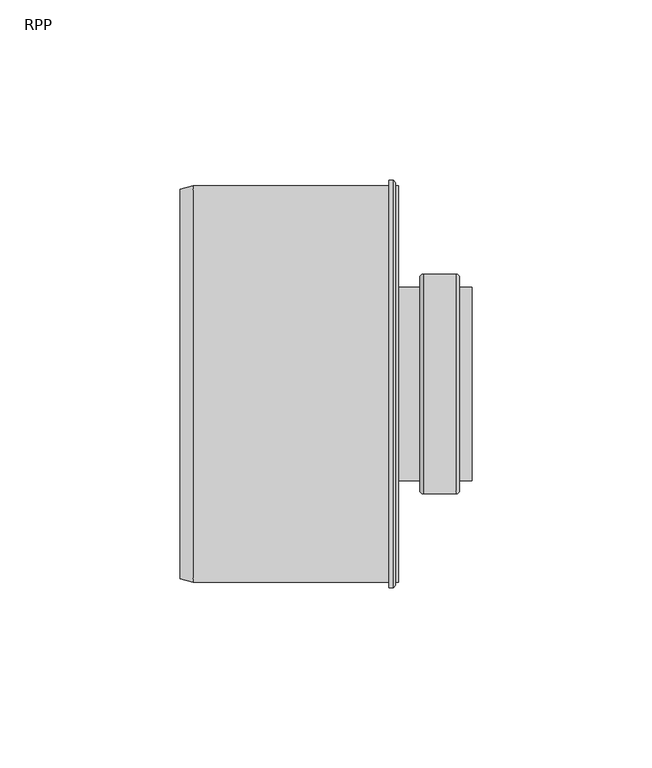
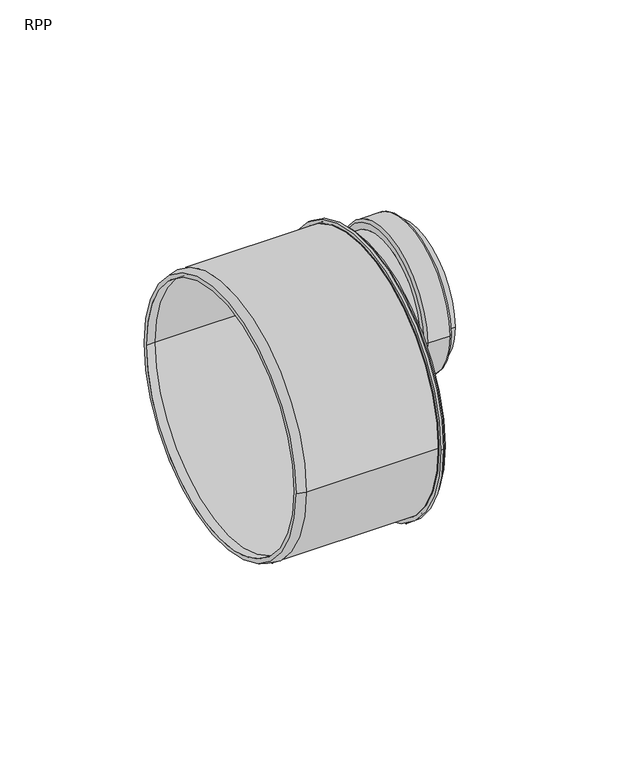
"""IFC4 building model written with IfcOpenShell, lengths in millimetres: pipe fitting geometry, RAUPIANO PLUS Short Reducer : RPP."""

from ifc_helpers import new_model, si_unit, point, frame, frame_2d, origin, origin_2d, place, context, project, spatial, polyline, circle_curve, ellipse_curve, trimmed, segment, composite_curve, outline, extrude, source, transform, mapped, element, save
from ifc_brep_helpers import plane_surface, cylinder_surface, revolved_surface, advanced_brep


def rpp_ede3856b(model_context):
    return source(origin(), model_context, "Body", "SolidModel", [
        extrude(outline(composite_curve([segment(trimmed(circle_curve(origin_2d(), 55.0), [point((-55.0, 0.0))], [point((55.0, 0.0))], False, "CARTESIAN"), True, "CONTINUOUS"), segment(trimmed(circle_curve(origin_2d(), 55.0), [point((55.0, 0.0))], [point((-55.0, 0.0))], False, "CARTESIAN"), True, "CONTINUOUS")], self_intersect=False), holes=[composite_curve([segment(trimmed(circle_curve(frame_2d((0.0, 27.3)), 25.0), [point((-25.0, 27.3))], [point((25.0, 27.3))], True, "CARTESIAN"), True, "CONTINUOUS"), segment(trimmed(circle_curve(frame_2d((0.0, 27.3)), 25.0), [point((25.0, 27.3))], [point((-25.0, 27.3))], True, "CARTESIAN"), True, "CONTINUOUS")], self_intersect=False)]), frame((0.0, 0.0, 0.0), z_axis=(1.0, 0.0, 0.0), x_axis=(0.0, 1.0, 0.0)), (0.0, 0.0, 1.0), 2.7),
        advanced_brep(
        [(0.0, 55.0, 0.0), (0.0, -55.0, 0.0), (1.8, -55.0, 0.0), (1.8, 55.0, 0.0), (1.8, 55.8680651, 0.0), (1.8, -55.8680651, 0.0), (0.0, -56.5429328, 0.0), (0.0, 56.5429328, 0.0), (1.2520203, -56.5429328, 0.0), (1.2520203, 56.5429328, 0.0)],
        [
            (0, 1, circle_curve(frame((0.0, 0.0, 0.0), z_axis=(-1.0, 0.0, 0.0), x_axis=(0.0, -1.0, 0.0)), 55.0)),
            (1, 2),
            (2, 3, circle_curve(frame((1.8, 0.0, 0.0), z_axis=(1.0, 0.0, 0.0), x_axis=(0.0, -1.0, 0.0)), 55.0)),
            (3, 0),
            (1, 0, circle_curve(frame((0.0, 0.0, 0.0), z_axis=(-1.0, 0.0, 0.0), x_axis=(0.0, 1.0, 0.0)), 55.0)),
            (3, 2, circle_curve(frame((1.8, 0.0, 0.0), z_axis=(1.0, 0.0, 0.0), x_axis=(0.0, 1.0, 0.0)), 55.0)),
            (4, 5, circle_curve(frame((1.8, 0.0, 0.0), z_axis=(1.0, 0.0, 0.0), x_axis=(0.0, 1.0, 0.0)), 55.8680651)),
            (5, 4, circle_curve(frame((1.8, 0.0, 0.0), z_axis=(1.0, 0.0, 0.0), x_axis=(0.0, -1.0, 0.0)), 55.8680651)),
            (6, 7, circle_curve(frame((0.0, 0.0, 0.0), z_axis=(-1.0, 0.0, 0.0), x_axis=(0.0, 1.0, 0.0)), 56.5429328)),
            (7, 6, circle_curve(frame((0.0, 0.0, 0.0), z_axis=(-1.0, 0.0, 0.0), x_axis=(0.0, -1.0, 0.0)), 56.5429328)),
            (5, 8),
            (8, 9, circle_curve(frame((1.2520203, 0.0, 0.0), z_axis=(1.0, 0.0, 0.0), x_axis=(0.0, -1.0, 0.0)), 56.5429328)),
            (9, 4),
            (8, 6),
            (7, 9),
            (9, 8, circle_curve(frame((1.2520203, 0.0, 0.0), z_axis=(1.0, 0.0, 0.0), x_axis=(0.0, 1.0, 0.0)), 56.5429328)),
        ],
        [
            revolved_surface(polyline([(1.8, -55.0, 0.0), (0.0, -55.0, 0.0)]), (0.0, 0.0, 0.0), (1.0, 0.0, 0.0)),
            revolved_surface(polyline([(1.8, 55.0, 0.0), (0.0, 55.0, 0.0)]), (0.0, 0.0, 0.0), (1.0, 0.0, 0.0)),
            plane_surface(frame((1.8, 0.0, 0.0), z_axis=(1.0, 0.0, 0.0), x_axis=(0.0, 1.0, 0.0))),
            plane_surface(frame((0.0, 0.0, 0.0), z_axis=(-1.0, 0.0, 0.0), x_axis=(0.0, 1.0, 0.0))),
            revolved_surface(polyline([(1.2520203, -56.5429328, 0.0), (1.8, -55.8680651, 0.0)]), (0.0, 0.0, 0.0), (1.0, 0.0, 0.0)),
            cylinder_surface(frame((0.0, 0.0, 0.0), z_axis=(1.0, 0.0, 0.0), x_axis=(0.0, -1.0, 0.0)), 56.5429328),
            revolved_surface(polyline([(1.2520203, 56.5429328, 0.0), (1.8, 55.8680651, 0.0)]), (0.0, 0.0, 0.0), (1.0, 0.0, 0.0)),
            cylinder_surface(frame((0.0, 0.0, 0.0), z_axis=(1.0, 0.0, 0.0), x_axis=(0.0, 1.0, 0.0)), 56.5429328),
        ],
        [
            (0, [[1, 2, 3, 4]]),
            (1, [[5, -4, 6, -2]]),
            (2, [[7, 8], [-6, -3]]),
            (3, [[9, 10], [-5, -1]]),
            (4, [[-8, 11, 12, 13]]),
            (5, [[-12, 14, -10, 15]]),
            (6, [[-7, -13, 16, -11]]),
            (7, [[-16, -15, -9, -14]]),
        ],
    ),
        advanced_brep(
        [(8.6, 26.8, 27.3), (8.6, -26.8, 27.3), (-22.0, -26.8, 27.3), (-22.0, 26.8, 27.3), (23.0, 26.8, 27.3), (23.0, -26.8, 27.3), (19.6, -26.8, 27.3), (19.6, 26.8, 27.3), (17.6, 25.0, 27.3), (17.6, -25.0, 27.3), (23.0, -25.0, 27.3), (23.0, 25.0, 27.3), (-20.2, 25.0, 27.3), (-20.2, -25.0, 27.3), (10.6, -25.0, 27.3), (10.6, 25.0, 27.3), (17.6, -28.5, 27.3), (17.6, 28.5, 27.3), (9.6, 30.5, 27.3), (9.6, -30.5, 27.3), (8.6, -29.5, 27.3), (8.6, 29.5, 27.3), (18.6, 30.5, 27.3), (18.6, -30.5, 27.3), (19.6, 29.5, 27.3), (19.6, -29.5, 27.3), (10.6, 28.5, 27.3), (10.6, -28.5, 27.3), (-22.0, 22.8, 27.3), (-22.0, -22.8, 27.3), (-20.2, -22.8, 27.3), (-20.2, 22.8, 27.3)],
        [
            (0, 1, circle_curve(frame((8.6, 0.0, 27.3), z_axis=(-1.0, 0.0, 0.0), x_axis=(0.0, -1.0, 0.0)), 26.8)),
            (1, 2),
            (2, 3, circle_curve(frame((-22.0, 0.0, 27.3), z_axis=(1.0, 0.0, 0.0), x_axis=(0.0, -1.0, 0.0)), 26.8)),
            (3, 0),
            (4, 5, circle_curve(frame((23.0, 0.0, 27.3), z_axis=(-1.0, 0.0, 0.0), x_axis=(0.0, -1.0, 0.0)), 26.8)),
            (5, 6),
            (6, 7, circle_curve(frame((19.6, 0.0, 27.3), z_axis=(1.0, 0.0, 0.0), x_axis=(0.0, -1.0, 0.0)), 26.8)),
            (7, 4),
            (8, 9, circle_curve(frame((17.6, 0.0, 27.3), z_axis=(-1.0, 0.0, 0.0), x_axis=(0.0, -1.0, 0.0)), 25.0)),
            (9, 10),
            (10, 11, circle_curve(frame((23.0, 0.0, 27.3), z_axis=(1.0, 0.0, 0.0), x_axis=(0.0, -1.0, 0.0)), 25.0)),
            (11, 8),
            (12, 13, circle_curve(frame((-20.2, 0.0, 27.3), z_axis=(-1.0, 0.0, 0.0), x_axis=(0.0, -1.0, 0.0)), 25.0)),
            (13, 14),
            (14, 15, circle_curve(frame((10.6, 0.0, 27.3), z_axis=(1.0, 0.0, 0.0), x_axis=(0.0, -1.0, 0.0)), 25.0)),
            (15, 12),
            (1, 0, circle_curve(frame((8.6, 0.0, 27.3), z_axis=(-1.0, 0.0, 0.0), x_axis=(0.0, 1.0, 0.0)), 26.8)),
            (3, 2, circle_curve(frame((-22.0, 0.0, 27.3), z_axis=(1.0, 0.0, 0.0), x_axis=(0.0, 1.0, 0.0)), 26.8)),
            (5, 4, circle_curve(frame((23.0, 0.0, 27.3), z_axis=(-1.0, 0.0, 0.0), x_axis=(0.0, 1.0, 0.0)), 26.8)),
            (7, 6, circle_curve(frame((19.6, 0.0, 27.3), z_axis=(1.0, 0.0, 0.0), x_axis=(0.0, 1.0, 0.0)), 26.8)),
            (10, 11, circle_curve(frame((23.0, 0.0, 27.3), z_axis=(-1.0, 0.0, 0.0), x_axis=(0.0, 1.0, 0.0)), 25.0)),
            (9, 8, circle_curve(frame((17.6, 0.0, 27.3), z_axis=(-1.0, 0.0, 0.0), x_axis=(0.0, 1.0, 0.0)), 25.0)),
            (13, 12, circle_curve(frame((-20.2, 0.0, 27.3), z_axis=(-1.0, 0.0, 0.0), x_axis=(0.0, 1.0, 0.0)), 25.0)),
            (15, 14, circle_curve(frame((10.6, 0.0, 27.3), z_axis=(1.0, 0.0, 0.0), x_axis=(0.0, 1.0, 0.0)), 25.0)),
            (16, 17, circle_curve(frame((17.6, 0.0, 27.3), z_axis=(-1.0, 0.0, 0.0), x_axis=(0.0, 1.0, 0.0)), 28.5)),
            (17, 16, circle_curve(frame((17.6, 0.0, 27.3), z_axis=(-1.0, 0.0, 0.0), x_axis=(0.0, -1.0, 0.0)), 28.5)),
            (18, 19, circle_curve(frame((9.6, 0.0, 27.3), z_axis=(-1.0, 0.0, 0.0), x_axis=(0.0, -1.0, 0.0)), 30.5)),
            (19, 20, circle_curve(frame((9.6, -29.5, 27.3), z_axis=(0.0, 0.0, -1.0), x_axis=(1.0, 0.0, 0.0)), 1.0)),
            (20, 21, circle_curve(frame((8.6, 0.0, 27.3), z_axis=(1.0, 0.0, 0.0), x_axis=(0.0, -1.0, 0.0)), 29.5)),
            (21, 18, circle_curve(frame((9.6, 29.5, 27.3), z_axis=(0.0, 0.0, -1.0), x_axis=(1.0, 0.0, 0.0)), 1.0)),
            (22, 23, circle_curve(frame((18.6, 0.0, 27.3), z_axis=(-1.0, 0.0, 0.0), x_axis=(0.0, -1.0, 0.0)), 30.5)),
            (23, 19),
            (18, 22),
            (24, 25, circle_curve(frame((19.6, 0.0, 27.3), z_axis=(-1.0, 0.0, 0.0), x_axis=(0.0, -1.0, 0.0)), 29.5)),
            (25, 23, circle_curve(frame((18.6, -29.5, 27.3), z_axis=(0.0, 0.0, -1.0), x_axis=(1.0, 0.0, 0.0)), 1.0)),
            (22, 24, circle_curve(frame((18.6, 29.5, 27.3), z_axis=(0.0, 0.0, -1.0), x_axis=(1.0, 0.0, 0.0)), 1.0)),
            (20, 21, circle_curve(frame((8.6, 0.0, 27.3), z_axis=(-1.0, 0.0, 0.0), x_axis=(0.0, 1.0, 0.0)), 29.5)),
            (19, 18, circle_curve(frame((9.6, 0.0, 27.3), z_axis=(-1.0, 0.0, 0.0), x_axis=(0.0, 1.0, 0.0)), 30.5)),
            (23, 22, circle_curve(frame((18.6, 0.0, 27.3), z_axis=(-1.0, 0.0, 0.0), x_axis=(0.0, 1.0, 0.0)), 30.5)),
            (25, 24, circle_curve(frame((19.6, 0.0, 27.3), z_axis=(-1.0, 0.0, 0.0), x_axis=(0.0, 1.0, 0.0)), 29.5)),
            (26, 27, circle_curve(frame((10.6, 0.0, 27.3), z_axis=(-1.0, 0.0, 0.0), x_axis=(0.0, -1.0, 0.0)), 28.5)),
            (27, 16),
            (17, 26),
            (28, 29, circle_curve(frame((-22.0, 0.0, 27.3), z_axis=(-1.0, 0.0, 0.0), x_axis=(0.0, -1.0, 0.0)), 22.8)),
            (29, 30),
            (30, 31, circle_curve(frame((-20.2, 0.0, 27.3), z_axis=(1.0, 0.0, 0.0), x_axis=(0.0, -1.0, 0.0)), 22.8)),
            (31, 28),
            (27, 26, circle_curve(frame((10.6, 0.0, 27.3), z_axis=(-1.0, 0.0, 0.0), x_axis=(0.0, 1.0, 0.0)), 28.5)),
            (30, 31, circle_curve(frame((-20.2, 0.0, 27.3), z_axis=(-1.0, 0.0, 0.0), x_axis=(0.0, 1.0, 0.0)), 22.8)),
            (29, 28, circle_curve(frame((-22.0, 0.0, 27.3), z_axis=(-1.0, 0.0, 0.0), x_axis=(0.0, 1.0, 0.0)), 22.8)),
        ],
        [
            cylinder_surface(frame((0.0, 0.0, 27.3), z_axis=(1.0, 0.0, 0.0), x_axis=(0.0, -1.0, 0.0)), 26.8),
            revolved_surface(polyline([(23.0, -25.0, 27.3), (17.6, -25.0, 27.3)]), (0.0, 0.0, 27.3), (1.0, 0.0, 0.0)),
            revolved_surface(polyline([(10.6, -25.0, 27.3), (-20.2, -25.0, 27.3)]), (0.0, 0.0, 27.3), (1.0, 0.0, 0.0)),
            cylinder_surface(frame((0.0, 0.0, 27.3), z_axis=(1.0, 0.0, 0.0), x_axis=(0.0, 1.0, 0.0)), 26.8),
            plane_surface(frame((23.0, 0.0, 27.3), z_axis=(1.0, 0.0, 0.0), x_axis=(0.0, 1.0, 0.0))),
            revolved_surface(polyline([(23.0, 25.0, 27.3), (17.6, 25.0, 27.3)]), (0.0, 0.0, 27.3), (1.0, 0.0, 0.0)),
            revolved_surface(polyline([(10.6, 25.0, 27.3), (-20.2, 25.0, 27.3)]), (0.0, 0.0, 27.3), (1.0, 0.0, 0.0)),
            plane_surface(frame((17.6, 0.0, 27.3), z_axis=(-1.0, 0.0, 0.0), x_axis=(0.0, 1.0, 0.0))),
            revolved_surface(trimmed(ellipse_curve(frame((9.6, -29.5, 27.3), z_axis=(0.0, 0.0, 1.0), x_axis=(1.0, 0.0, 0.0)), 1.0, 1.0), [point((8.6, -29.5, 27.3))], [point((9.6, -30.5, 27.3))], True, "CARTESIAN"), (0.0, 0.0, 27.3), (1.0, 0.0, 0.0)),
            cylinder_surface(frame((0.0, 0.0, 27.3), z_axis=(1.0, 0.0, 0.0), x_axis=(0.0, -1.0, 0.0)), 30.5),
            revolved_surface(trimmed(ellipse_curve(frame((18.6, -29.5, 27.3), z_axis=(0.0, 0.0, 1.0), x_axis=(1.0, 0.0, 0.0)), 1.0, 1.0), [point((18.6, -30.5, 27.3))], [point((19.6, -29.5, 27.3))], True, "CARTESIAN"), (0.0, 0.0, 27.3), (1.0, 0.0, 0.0)),
            plane_surface(frame((8.6, 0.0, 27.3), z_axis=(-1.0, 0.0, 0.0), x_axis=(0.0, 1.0, 0.0))),
            revolved_surface(trimmed(ellipse_curve(frame((9.6, 29.5, 27.3), z_axis=(0.0, 0.0, -1.0), x_axis=(1.0, 0.0, 0.0)), 1.0, 1.0), [point((8.6, 29.5, 27.3))], [point((9.6, 30.5, 27.3))], True, "CARTESIAN"), (0.0, 0.0, 27.3), (1.0, 0.0, 0.0)),
            cylinder_surface(frame((0.0, 0.0, 27.3), z_axis=(1.0, 0.0, 0.0), x_axis=(0.0, 1.0, 0.0)), 30.5),
            revolved_surface(trimmed(ellipse_curve(frame((18.6, 29.5, 27.3), z_axis=(0.0, 0.0, -1.0), x_axis=(1.0, 0.0, 0.0)), 1.0, 1.0), [point((18.6, 30.5, 27.3))], [point((19.6, 29.5, 27.3))], True, "CARTESIAN"), (0.0, 0.0, 27.3), (1.0, 0.0, 0.0)),
            plane_surface(frame((19.6, 0.0, 27.3), z_axis=(1.0, 0.0, 0.0), x_axis=(0.0, 1.0, 0.0))),
            revolved_surface(polyline([(17.6, -28.5, 27.3), (10.6, -28.5, 27.3)]), (0.0, 0.0, 27.3), (1.0, 0.0, 0.0)),
            revolved_surface(polyline([(-20.2, -22.8, 27.3), (-22.0, -22.8, 27.3)]), (0.0, 0.0, 27.3), (1.0, 0.0, 0.0)),
            revolved_surface(polyline([(17.6, 28.5, 27.3), (10.6, 28.5, 27.3)]), (0.0, 0.0, 27.3), (1.0, 0.0, 0.0)),
            plane_surface(frame((10.6, 0.0, 27.3), z_axis=(1.0, 0.0, 0.0), x_axis=(0.0, 1.0, 0.0))),
            plane_surface(frame((-20.2, 0.0, 27.3), z_axis=(1.0, 0.0, 0.0), x_axis=(0.0, 1.0, 0.0))),
            revolved_surface(polyline([(-20.2, 22.8, 27.3), (-22.0, 22.8, 27.3)]), (0.0, 0.0, 27.3), (1.0, 0.0, 0.0)),
            plane_surface(frame((-22.0, 0.0, 27.3), z_axis=(-1.0, 0.0, 0.0), x_axis=(0.0, 1.0, 0.0))),
        ],
        [
            (0, [[1, 2, 3, 4]]),
            (0, [[5, 6, 7, 8]]),
            (1, [[9, 10, 11, 12]]),
            (2, [[13, 14, 15, 16]]),
            (3, [[17, -4, 18, -2]]),
            (3, [[19, -8, 20, -6]]),
            (4, [[-19, -5], [21, -11]]),
            (5, [[22, -12, -21, -10]]),
            (6, [[23, -16, 24, -14]]),
            (7, [[25, 26], [-22, -9]]),
            (8, [[27, 28, 29, 30]]),
            (9, [[31, 32, -27, 33]]),
            (10, [[34, 35, -31, 36]]),
            (11, [[37, -29], [-17, -1]]),
            (12, [[38, -30, -37, -28]]),
            (13, [[39, -33, -38, -32]]),
            (14, [[40, -36, -39, -35]]),
            (15, [[-40, -34], [-20, -7]]),
            (16, [[41, 42, -26, 43]]),
            (17, [[44, 45, 46, 47]]),
            (18, [[48, -43, -25, -42]]),
            (19, [[-48, -41], [-24, -15]]),
            (20, [[-23, -13], [49, -46]]),
            (21, [[50, -47, -49, -45]]),
            (22, [[-18, -3], [-50, -44]]),
        ],
    ),
        advanced_brep(
        [(-54.4, 52.3, 0.0), (-54.4, -52.3, 0.0), (0.0, -52.3, 0.0), (0.0, 52.3, 0.0), (-58.0, 52.3, 0.0), (-58.0, -52.3, 0.0), (-54.4, 55.0, 0.0), (-54.4, -55.0, 0.0), (-58.0, -54.0353829, 0.0), (-58.0, 54.0353829, 0.0), (0.0, 55.0, 0.0), (0.0, -55.0, 0.0)],
        [
            (0, 1, circle_curve(frame((-54.4, 0.0, 0.0), z_axis=(-1.0, 0.0, 0.0), x_axis=(0.0, -1.0, 0.0)), 52.3)),
            (1, 2),
            (2, 3, circle_curve(frame((0.0, 0.0, 0.0), z_axis=(1.0, 0.0, 0.0), x_axis=(0.0, -1.0, 0.0)), 52.3)),
            (3, 0),
            (4, 5, circle_curve(frame((-58.0, 0.0, 0.0), z_axis=(-1.0, 0.0, 0.0), x_axis=(0.0, -1.0, 0.0)), 52.3)),
            (5, 1),
            (0, 4),
            (6, 7, circle_curve(frame((-54.4, 0.0, 0.0), z_axis=(-1.0, 0.0, 0.0), x_axis=(0.0, -1.0, 0.0)), 55.0)),
            (7, 8),
            (8, 9, circle_curve(frame((-58.0, 0.0, 0.0), z_axis=(1.0, 0.0, 0.0), x_axis=(0.0, -1.0, 0.0)), 54.0353829)),
            (9, 6),
            (10, 11, circle_curve(frame((0.0, 0.0, 0.0), z_axis=(-1.0, 0.0, 0.0), x_axis=(0.0, -1.0, 0.0)), 55.0)),
            (11, 7),
            (6, 10),
            (10, 11, circle_curve(frame((0.0, 0.0, 0.0), z_axis=(1.0, 0.0, 0.0), x_axis=(0.0, 1.0, 0.0)), 55.0)),
            (2, 3, circle_curve(frame((0.0, 0.0, 0.0), z_axis=(-1.0, 0.0, 0.0), x_axis=(0.0, 1.0, 0.0)), 52.3)),
            (1, 0, circle_curve(frame((-54.4, 0.0, 0.0), z_axis=(-1.0, 0.0, 0.0), x_axis=(0.0, 1.0, 0.0)), 52.3)),
            (5, 4, circle_curve(frame((-58.0, 0.0, 0.0), z_axis=(-1.0, 0.0, 0.0), x_axis=(0.0, 1.0, 0.0)), 52.3)),
            (8, 9, circle_curve(frame((-58.0, 0.0, 0.0), z_axis=(-1.0, 0.0, 0.0), x_axis=(0.0, 1.0, 0.0)), 54.0353829)),
            (7, 6, circle_curve(frame((-54.4, 0.0, 0.0), z_axis=(-1.0, 0.0, 0.0), x_axis=(0.0, 1.0, 0.0)), 55.0)),
        ],
        [
            revolved_surface(polyline([(0.0, -52.3, 0.0), (-54.4, -52.3, 0.0)]), (0.0, 0.0, 0.0), (1.0, 0.0, 0.0)),
            revolved_surface(polyline([(-54.4, -52.3, 0.0), (-58.0, -52.3, 0.0)]), (0.0, 0.0, 0.0), (1.0, 0.0, 0.0)),
            revolved_surface(polyline([(-58.0, -54.0353829, 0.0), (-54.4, -55.0, 0.0)]), (0.0, 0.0, 0.0), (1.0, 0.0, 0.0)),
            cylinder_surface(frame((0.0, 0.0, 0.0), z_axis=(1.0, 0.0, 0.0), x_axis=(0.0, -1.0, 0.0)), 55.0),
            plane_surface(frame((0.0, 0.0, 0.0), z_axis=(1.0, 0.0, 0.0), x_axis=(0.0, 1.0, 0.0))),
            revolved_surface(polyline([(0.0, 52.3, 0.0), (-54.4, 52.3, 0.0)]), (0.0, 0.0, 0.0), (1.0, 0.0, 0.0)),
            revolved_surface(polyline([(-54.4, 52.3, 0.0), (-58.0, 52.3, 0.0)]), (0.0, 0.0, 0.0), (1.0, 0.0, 0.0)),
            plane_surface(frame((-58.0, 0.0, 0.0), z_axis=(-1.0, 0.0, 0.0), x_axis=(0.0, 1.0, 0.0))),
            revolved_surface(polyline([(-58.0, 54.0353829, 0.0), (-54.4, 55.0, 0.0)]), (0.0, 0.0, 0.0), (1.0, 0.0, 0.0)),
            cylinder_surface(frame((0.0, 0.0, 0.0), z_axis=(1.0, 0.0, 0.0), x_axis=(0.0, 1.0, 0.0)), 55.0),
        ],
        [
            (0, [[1, 2, 3, 4]]),
            (1, [[5, 6, -1, 7]]),
            (2, [[8, 9, 10, 11]]),
            (3, [[12, 13, -8, 14]]),
            (4, [[15, -12], [16, -3]]),
            (5, [[17, -4, -16, -2]]),
            (6, [[18, -7, -17, -6]]),
            (7, [[19, -10], [-18, -5]]),
            (8, [[20, -11, -19, -9]]),
            (9, [[-15, -14, -20, -13]]),
        ],
    ),
    ])


if __name__ == "__main__":
    model = new_model("IFC4")
    model_context = context("Model", 3, world=origin())
    ifc_project = project(units=[si_unit("LENGTHUNIT", "METRE", prefix="MILLI")], contexts=[model_context])
    site = spatial("IfcSite", under=ifc_project)
    building = spatial("IfcBuilding", under=site)
    placement = place(None, origin())
    rpp_shape = rpp_ede3856b(model_context)
    element("IfcPipeFitting", 1, ObjectType="RAUPIANO PLUS Short Reducer : RPP", at=placement, inside=building, context=model_context, shape_type="MappedRepresentation", body=[
        mapped(rpp_shape, transform((0.0, 0.0, 0.0), x_axis=(1.0, 0.0, 0.0), y_axis=(0.0, 1.0, 0.0), z_axis=(0.0, 0.0, 1.0))),
    ])
    save(model, "model.ifc")
